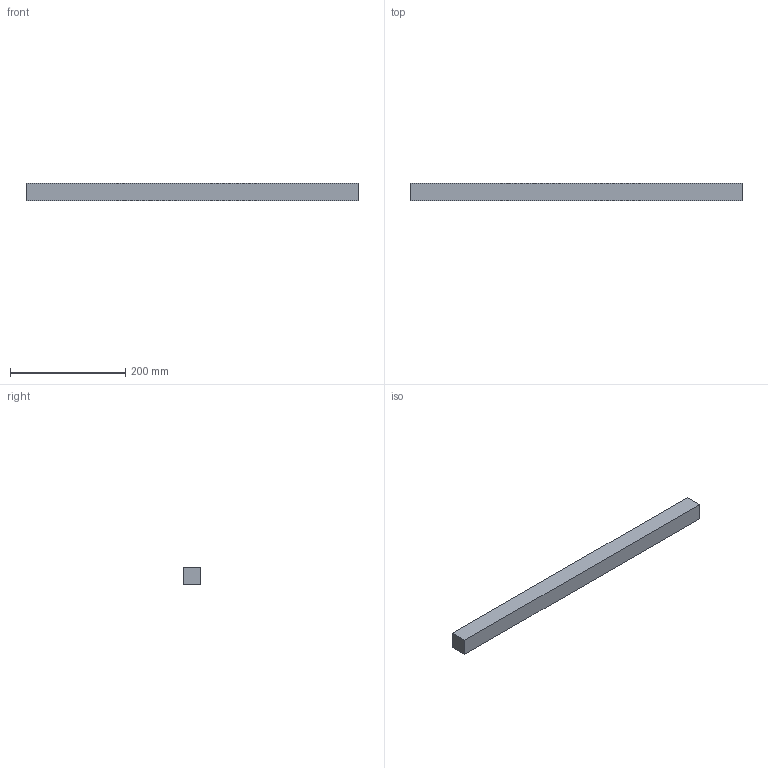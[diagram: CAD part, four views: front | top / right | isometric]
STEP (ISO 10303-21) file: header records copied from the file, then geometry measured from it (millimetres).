
FILE_DESCRIPTION(('Open CASCADE Model'),'2;1');
FILE_NAME('Open CASCADE Shape Model','2026-03-30T20:16:05',('Author'),( 'Open CASCADE'),'Open CASCADE STEP processor 7.8','Open CASCADE 7.8' ,'Unknown');
FILE_SCHEMA(('AUTOMOTIVE_DESIGN { 1 0 10303 214 1 1 1 1 }'));
Length unit declared in the file: millimetre
Products named in the file (1): Open CASCADE STEP translator 7.8 12
Bounding box: 575 x 30 x 30 mm (x, y, z)
Volume: 517500 mm3; surface area: 70800 mm2
Topology: 1 solids, 1 shells, 6 faces, 12 edges, 8 vertices
Faces by surface type: plane 6
Entity records: 322 total; most frequent: CARTESIAN_POINT 51, DIRECTION 50, LINE 36, VECTOR 36, ORIENTED_EDGE 24, PCURVE 24, DEFINITIONAL_REPRESENTATION 24, EDGE_CURVE 12
